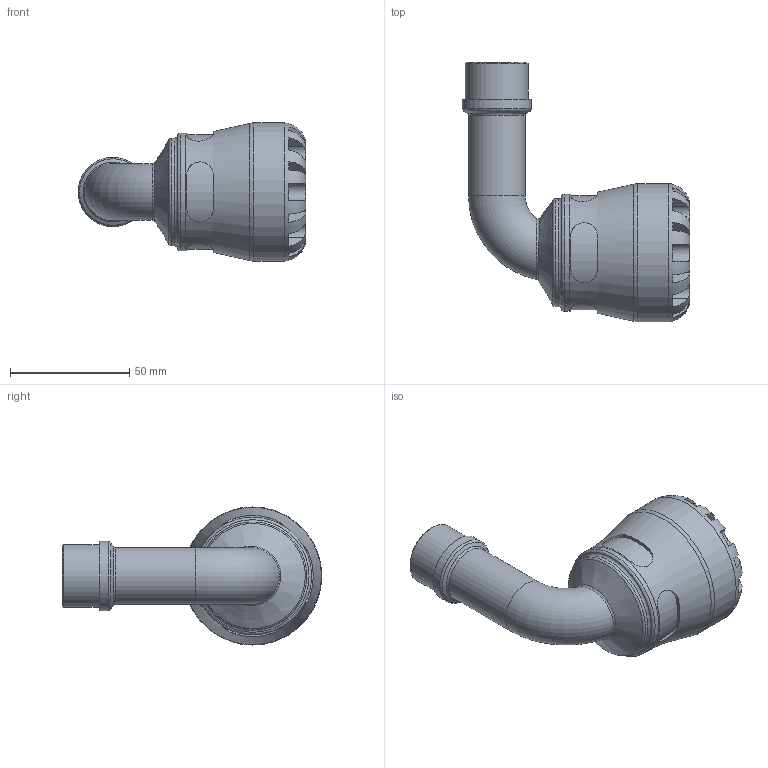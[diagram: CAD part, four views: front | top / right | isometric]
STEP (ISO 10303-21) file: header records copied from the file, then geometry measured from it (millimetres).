
FILE_DESCRIPTION(/* description */ ('PLASSON 90° ELBOW WITH MALE INTEGRAL BRASS 32X3/4" SERIES 1'),/* implementation_level */ '2;1');
FILE_NAME(/* name */ 'C:\Dropbox\KIMPROJECTS-Inventor\99-16-3568-Processing\1077\107700032007_197700032007.ipt.stp',/* time_stamp */ '2017-01-22T11:54:24+02:00',/* author */ ('KIM'),/* organization */ (''),/* preprocessor_version */ 'ST-DEVELOPER v15.6',/* originating_system */ 'Autodesk Inventor 2015',/* authorisation */ '');
FILE_SCHEMA (('AUTOMOTIVE_DESIGN { 1 0 10303 214 3 1 1 }'));
Length unit declared in the file: millimetre
Products named in the file (1): 107700032007_197700032007
Bounding box: 95.54 x 109 x 58 mm (x, y, z)
Volume: 102440.4 mm3; surface area: 32847.9 mm2
Topology: 1 solids, 1 shells, 112 faces, 275 edges, 170 vertices
Faces by surface type: plane 60, cylinder 37, torus 9, cone 3, bspline 3
Full cylindrical faces by diameter (mm): 18.509 x2, 23.797 x1, 26.441 x1, 29.085 x1, 32 x1, 45.24 x1, 49.3 x1, 58 x1
Entity records: 4372 total; most frequent: CARTESIAN_POINT 1796, DIRECTION 495, ORIENTED_EDGE 492, EDGE_CURVE 246, AXIS2_PLACEMENT_3D 207, VERTEX_POINT 163, EDGE_LOOP 141, STYLED_ITEM 113
